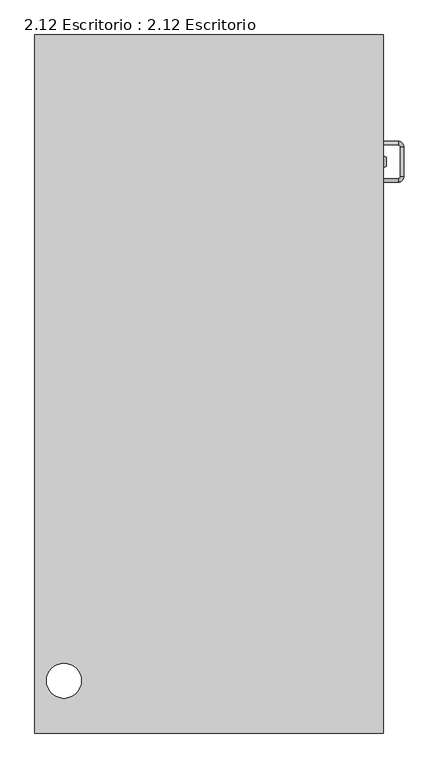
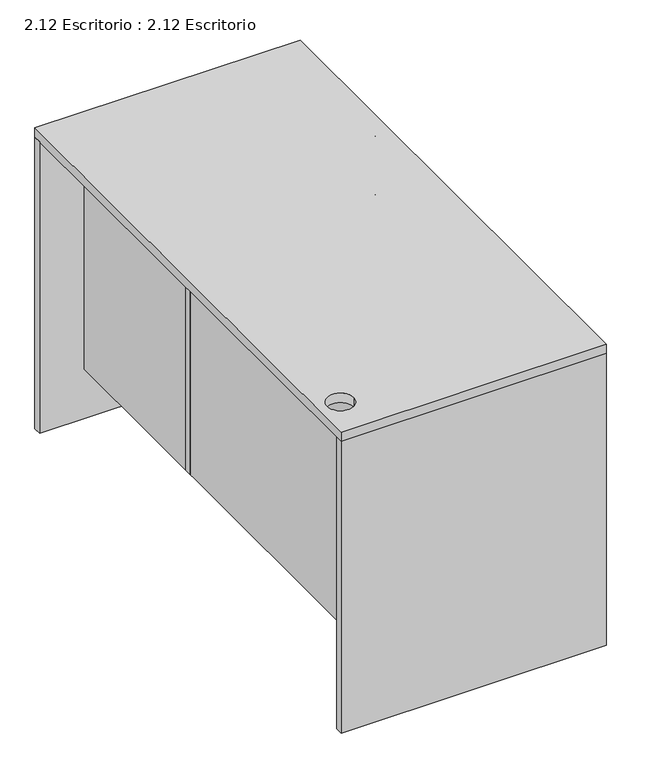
"""IFC4 building model written with IfcOpenShell, lengths in millimetres: furniture geometry, 2.12 Escritorio : 2.12 Escritorio."""

from ifc_helpers import new_model, si_unit, point, frame, origin, place, context, project, spatial, polyline, circle_curve, ellipse_curve, trimmed, faceted_brep, source, transform, mapped, element, save
from ifc_brep_helpers import plane_surface, cylinder_surface, revolved_surface, advanced_brep


def furniture_2_12_escritorio_2_12_escritorio_cd86329a(model_context):
    return source(origin(), model_context, "Body", "SolidModel", [
        faceted_brep([(300.0, 582.0, 0.0), (300.0, 582.0, 698.0), (-300.0, 582.0, 698.0), (-300.0, 582.0, 0.0), (300.0, 600.0, 698.0), (300.0, 600.0, 0.0), (-300.0, 600.0, 0.0), (-300.0, 600.0, 698.0)], [[[0, 1, 2, 3]], [[4, 5, 6, 7]], [[7, 2, 1, 4]], [[6, 3, 2, 7]], [[5, 0, 3, 6]], [[4, 1, 0, 5]]]),
        advanced_brep(
        [(-220.0, -510.0958621, 698.0), (-220.0, -510.0958621, 720.0), (-250.0, -480.0958621, 720.0), (-280.0, -510.0958621, 720.0), (-280.0, -510.0958621, 698.0), (300.0, -600.0, 698.0), (300.0, -600.0, 720.0), (-300.0, -600.0, 720.0), (-300.0, -600.0, 698.0), (300.0, 600.0, 720.0), (300.0, 600.0, 698.0), (-300.0, 600.0, 698.0), (-300.0, 600.0, 720.0)],
        [
            (0, 1),
            (1, 2, circle_curve(frame((-250.0, -510.0958621, 720.0), z_axis=(0.0, 0.0, 1.0), x_axis=(1.0, 0.0, 0.0)), 30.0)),
            (2, 3, circle_curve(frame((-250.0, -510.0958621, 720.0), z_axis=(0.0, 0.0, 1.0), x_axis=(1.0, 0.0, 0.0)), 30.0)),
            (3, 4),
            (4, 0, circle_curve(frame((-250.0, -510.0958621, 698.0), z_axis=(0.0, 0.0, -1.0), x_axis=(1.0, 0.0, 0.0)), 30.0)),
            (0, 4, circle_curve(frame((-250.0, -510.0958621, 698.0), z_axis=(0.0, 0.0, -1.0), x_axis=(1.0, 0.0, 0.0)), 30.0)),
            (3, 1, circle_curve(frame((-250.0, -510.0958621, 720.0), z_axis=(0.0, 0.0, 1.0), x_axis=(1.0, 0.0, 0.0)), 30.0)),
            (5, 6),
            (6, 7),
            (7, 8),
            (8, 5),
            (9, 10),
            (10, 11),
            (11, 12),
            (12, 9),
            (12, 7),
            (6, 9),
            (11, 8),
            (10, 5),
        ],
        [
            revolved_surface(polyline([(-220.0, -510.0958621, 698.0), (-220.0, -510.0958621, 720.0)]), (-250.0, -510.0958621, 720.0), (0.0, 0.0, -1.0)),
            plane_surface(frame((0.0, -600.0, 709.0), z_axis=(0.0, -1.0, 0.0), x_axis=(1.0, 0.0, 0.0))),
            plane_surface(frame((0.0, 600.0, 709.0), z_axis=(0.0, 1.0, 0.0), x_axis=(1.0, 0.0, 0.0))),
            plane_surface(frame((0.0, 0.0, 720.0), z_axis=(0.0, 0.0, 1.0), x_axis=(0.0, -1.0, 0.0))),
            plane_surface(frame((-300.0, 0.0, 709.0), z_axis=(-1.0, 0.0, 0.0), x_axis=(0.0, 1.0, 0.0))),
            plane_surface(frame((0.0, 0.0, 698.0), z_axis=(0.0, 0.0, -1.0), x_axis=(0.0, 1.0, 0.0))),
            plane_surface(frame((300.0, 0.0, 709.0), z_axis=(1.0, 0.0, 0.0), x_axis=(0.0, -1.0, 0.0))),
        ],
        [
            (0, [[1, 2, 3, 4, 5]]),
            (0, [[-1, 6, -4, 7]]),
            (1, [[8, 9, 10, 11]]),
            (2, [[12, 13, 14, 15]]),
            (3, [[16, -9, 17, -15], [-2, -7, -3]]),
            (4, [[18, -10, -16, -14]]),
            (5, [[19, -11, -18, -13], [-6, -5]]),
            (6, [[-17, -8, -19, -12]]),
        ],
    ),
        faceted_brep([(-50.0, -582.0, 628.0), (-50.0, -582.0, 613.0), (300.0, -582.0, 613.0), (300.0, -582.0, 628.0), (-50.0, 164.0, 613.0), (-50.0, 164.0, 628.0), (300.0, 164.0, 628.0), (300.0, 164.0, 613.0)], [[[0, 1, 2, 3]], [[4, 5, 6, 7]], [[7, 2, 1, 4]], [[6, 3, 2, 7]], [[5, 0, 3, 6]], [[4, 1, 0, 5]]]),
        faceted_brep([(300.0, -600.0, 0.0), (300.0, -600.0, 698.0), (-300.0, -600.0, 698.0), (-300.0, -600.0, 0.0), (300.0, -582.0, 698.0), (300.0, -582.0, 0.0), (-300.0, -582.0, 0.0), (-300.0, -582.0, 698.0)], [[[0, 1, 2, 3]], [[4, 5, 6, 7]], [[7, 2, 1, 4]], [[6, 3, 2, 7]], [[5, 0, 3, 6]], [[4, 1, 0, 5]]]),
        faceted_brep([(-100.0, 164.0, 0.0), (-100.0, 164.0, 120.0), (-100.0, 182.0, 120.0), (-100.0, 182.0, 0.0), (-200.0, 164.0, 120.0), (-200.0, 182.0, 120.0), (300.0, 182.0, 0.0), (300.0, 164.0, 0.0), (-200.0, 182.0, 698.0), (300.0, 182.0, 698.0), (300.0, 164.0, 698.0), (-200.0, 164.0, 698.0)], [[[0, 1, 2, 3]], [[1, 4, 5, 2]], [[0, 3, 6, 7]], [[3, 2, 5, 8, 9, 6]], [[1, 0, 7, 10, 11, 4]], [[8, 11, 10, 9]], [[5, 4, 11, 8]], [[9, 10, 7, 6]]]),
        faceted_brep([(300.0, 582.0, 558.0), (300.0, 582.0, 698.0), (300.0, 182.0, 698.0), (300.0, 182.0, 558.0), (282.0, 582.0, 698.0), (282.0, 582.0, 558.0), (282.0, 182.0, 558.0), (282.0, 182.0, 698.0)], [[[0, 1, 2, 3]], [[4, 5, 6, 7]], [[3, 6, 5, 0]], [[2, 7, 6, 3]], [[1, 4, 7, 2]], [[0, 5, 4, 1]]]),
        advanced_brep(
        [(325.0, 417.0, 628.0), (335.0, 407.0, 628.0), (329.0, 407.0, 628.0), (325.0, 411.0, 628.0), (335.0, 357.0, 628.0), (325.0, 347.0, 628.0), (325.0, 353.0, 628.0), (329.0, 357.0, 628.0), (300.0, 411.0, 628.0), (300.0, 417.0, 628.0), (300.0, 353.0, 628.0), (300.0, 347.0, 628.0)],
        [
            (0, 1, circle_curve(frame((325.0, 407.0, 628.0), z_axis=(0.0, 0.0, -1.0), x_axis=(0.0, -1.0, 0.0)), 10.0)),
            (1, 2, circle_curve(frame((332.0, 407.0, 628.0), z_axis=(2.910621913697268e-12, 1.0, 0.0), x_axis=(1.0, -2.910621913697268e-12, 0.0)), 3.0)),
            (2, 3, circle_curve(frame((325.0, 407.0, 628.0), z_axis=(0.0, 0.0, 1.0), x_axis=(0.0, -1.0, 0.0)), 4.0)),
            (3, 0, circle_curve(frame((325.0, 414.0, 628.0), z_axis=(1.0, 1.4551792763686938e-11, 0.0), x_axis=(-1.4551792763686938e-11, 1.0, 0.0)), 3.0)),
            (4, 5, circle_curve(frame((325.0, 357.0, 628.0), z_axis=(0.0, 0.0, -1.0), x_axis=(0.0, -1.0, 0.0)), 10.0)),
            (5, 6, circle_curve(frame((325.0, 350.0, 628.0), z_axis=(1.0, -1.7462253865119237e-11, 0.0), x_axis=(-1.7462253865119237e-11, -1.0, 0.0)), 3.0)),
            (6, 7, circle_curve(frame((325.0, 357.0, 628.0), z_axis=(0.0, 0.0, 1.0), x_axis=(0.0, -1.0, 0.0)), 4.0)),
            (7, 4, circle_curve(frame((332.0, 357.0, 628.0), z_axis=(-7.276018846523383e-12, -1.0, 0.0), x_axis=(1.0, -7.276018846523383e-12, 0.0)), 3.0)),
            (8, 3),
            (3, 0, circle_curve(frame((325.0, 414.0, 628.0), z_axis=(-1.0, 0.0, 0.0), x_axis=(0.0, -1.0, 0.0)), 3.0)),
            (0, 9),
            (9, 8, circle_curve(frame((300.0, 414.0, 628.0), z_axis=(1.0, 0.0, 0.0), x_axis=(0.0, -1.0, 0.0)), 3.0)),
            (2, 7),
            (7, 4, circle_curve(frame((332.0, 357.0, 628.0), z_axis=(0.0, 1.0, 0.0), x_axis=(-1.0, 0.0, 0.0)), 3.0)),
            (4, 1),
            (1, 2, circle_curve(frame((332.0, 407.0, 628.0), z_axis=(0.0, -1.0, 0.0), x_axis=(-1.0, 0.0, 0.0)), 3.0)),
            (6, 10),
            (10, 11, circle_curve(frame((300.0, 350.0, 628.0), z_axis=(1.0, 0.0, 0.0), x_axis=(0.0, 1.0, 0.0)), 3.0)),
            (11, 5),
            (5, 6, circle_curve(frame((325.0, 350.0, 628.0), z_axis=(-1.0, 0.0, 0.0), x_axis=(0.0, 1.0, 0.0)), 3.0)),
            (11, 10, circle_curve(frame((300.0, 350.0, 628.0), z_axis=(1.0, 0.0, 0.0), x_axis=(0.0, 1.0, 0.0)), 3.0)),
            (8, 9, circle_curve(frame((300.0, 414.0, 628.0), z_axis=(1.0, 0.0, 0.0), x_axis=(0.0, -1.0, 0.0)), 3.0)),
        ],
        [
            revolved_surface(trimmed(ellipse_curve(frame((325.0, 400.0, 628.0), z_axis=(1.0, 0.0, 0.0), x_axis=(0.0, -1.0, 0.0)), 3.0, 3.0), [point((325.0, 397.0, 628.0))], [point((325.0, 403.0, 628.0))], True, "CARTESIAN"), (325.0, 407.0, 628.0), (0.0, 0.0, -1.0)),
            revolved_surface(trimmed(ellipse_curve(frame((325.0, 350.0, 628.0), z_axis=(1.0, 0.0, 0.0), x_axis=(0.0, -1.0, 0.0)), 3.0, 3.0), [point((325.0, 347.0, 628.0))], [point((325.0, 353.0, 628.0))], True, "CARTESIAN"), (325.0, 357.0, 628.0), (0.0, 0.0, -1.0)),
            cylinder_surface(frame((300.0, 414.0, 628.0), z_axis=(1.0, 0.0, 0.0), x_axis=(0.0, -1.0, 0.0)), 3.0),
            cylinder_surface(frame((332.0, 407.0, 628.0), z_axis=(0.0, -1.0, 0.0), x_axis=(-1.0, 0.0, 0.0)), 3.0),
            cylinder_surface(frame((325.0, 350.0, 628.0), z_axis=(-1.0, 0.0, 0.0), x_axis=(0.0, 1.0, 0.0)), 3.0),
            revolved_surface(trimmed(ellipse_curve(frame((325.0, 350.0, 628.0), z_axis=(1.0, 0.0, 0.0), x_axis=(0.0, -1.0, 0.0)), 3.0, 3.0), [point((325.0, 353.0, 628.0))], [point((325.0, 347.0, 628.0))], True, "CARTESIAN"), (325.0, 357.0, 628.0), (0.0, 0.0, -1.0)),
            revolved_surface(trimmed(ellipse_curve(frame((325.0, 400.0, 628.0), z_axis=(1.0, 0.0, 0.0), x_axis=(0.0, -1.0, 0.0)), 3.0, 3.0), [point((325.0, 403.0, 628.0))], [point((325.0, 397.0, 628.0))], True, "CARTESIAN"), (325.0, 407.0, 628.0), (0.0, 0.0, -1.0)),
            plane_surface(frame((300.0, 350.0, 628.0), z_axis=(-1.0, 0.0, 0.0), x_axis=(0.0, 0.0, 1.0))),
            plane_surface(frame((300.0, 414.0, 628.0), z_axis=(-1.0, 0.0, 0.0), x_axis=(0.0, 0.0, 1.0))),
        ],
        [
            (0, [[1, 2, 3, 4]]),
            (1, [[5, 6, 7, 8]]),
            (2, [[9, 10, 11, 12]]),
            (3, [[13, 14, 15, 16]]),
            (4, [[17, 18, 19, 20]]),
            (4, [[-17, -6, -19, 21]]),
            (5, [[-5, -14, -7, -20]]),
            (3, [[-13, -2, -15, -8]]),
            (6, [[-1, -10, -3, -16]]),
            (2, [[-9, 22, -11, -4]]),
            (7, [[-18, -21]]),
            (8, [[-12, -22]]),
        ],
    ),
        advanced_brep(
        [(300.0, 392.0, 673.0), (305.0, 390.0, 673.0), (305.0, 374.0, 673.0), (300.0, 372.0, 673.0), (303.5, 382.0, 678.0), (305.0, 382.0, 678.0), (305.0, 382.0, 668.0), (303.5, 382.0, 668.0)],
        [
            (0, 1),
            (1, 2, circle_curve(frame((305.0, 382.0, 673.0), z_axis=(-1.0, 0.0, 0.0), x_axis=(0.0, 1.0, 0.0)), 8.0)),
            (2, 3),
            (3, 0, circle_curve(frame((300.0, 382.0, 673.0), z_axis=(1.0, 0.0, 0.0), x_axis=(0.0, 1.0, 0.0)), 10.0)),
            (4, 5),
            (5, 6, circle_curve(frame((305.0, 382.0, 673.0), z_axis=(1.0, 0.0, 0.0), x_axis=(0.0, 0.0, 1.0)), 5.0)),
            (6, 7),
            (7, 4, circle_curve(frame((303.5, 382.0, 673.0), z_axis=(-1.0, 0.0, 0.0), x_axis=(0.0, 0.0, 1.0)), 5.0)),
            (4, 7, circle_curve(frame((303.5, 382.0, 673.0), z_axis=(-1.0, 0.0, 0.0), x_axis=(0.0, 0.0, 1.0)), 5.0)),
            (6, 5, circle_curve(frame((305.0, 382.0, 673.0), z_axis=(1.0, 0.0, 0.0), x_axis=(0.0, 0.0, 1.0)), 5.0)),
            (0, 3, circle_curve(frame((300.0, 382.0, 673.0), z_axis=(1.0, 0.0, 0.0), x_axis=(0.0, 1.0, 0.0)), 10.0)),
            (2, 1, circle_curve(frame((305.0, 382.0, 673.0), z_axis=(-1.0, 0.0, 0.0), x_axis=(0.0, 1.0, 0.0)), 8.0)),
        ],
        [
            revolved_surface(polyline([(305.0, 390.0, 673.0), (300.0, 392.0, 673.0)]), (325.0, 382.0, 673.0), (-1.0, 0.0, 0.0)),
            revolved_surface(polyline([(303.5, 382.0, 678.0), (305.0, 382.0, 678.0)]), (304.25, 382.0, 673.0), (-1.0, 0.0, 0.0)),
            plane_surface(frame((303.5, 382.0, 673.0), z_axis=(1.0, 0.0, 0.0), x_axis=(0.0, 0.0, 1.0))),
            plane_surface(frame((300.0, 382.0, 673.0), z_axis=(-1.0, 0.0, 0.0), x_axis=(0.0, -1.0, 0.0))),
            plane_surface(frame((305.0, 382.0, 673.0), z_axis=(1.0, 0.0, 0.0), x_axis=(0.0, 1.0, 0.0))),
        ],
        [
            (0, [[1, 2, 3, 4]]),
            (1, [[5, 6, 7, 8]]),
            (1, [[-5, 9, -7, 10]]),
            (2, [[-9, -8]]),
            (0, [[-1, 11, -3, 12]]),
            (3, [[-4, -11]]),
            (4, [[-12, -2], [-10, -6]]),
        ],
    ),
        faceted_brep([(300.0, 582.0, 418.0), (300.0, 582.0, 558.0), (300.0, 182.0, 558.0), (300.0, 182.0, 418.0), (282.0, 582.0, 558.0), (282.0, 582.0, 418.0), (282.0, 182.0, 418.0), (282.0, 182.0, 558.0)], [[[0, 1, 2, 3]], [[4, 5, 6, 7]], [[3, 6, 5, 0]], [[2, 7, 6, 3]], [[1, 4, 7, 2]], [[0, 5, 4, 1]]]),
        advanced_brep(
        [(325.0, 417.0, 488.0), (335.0, 407.0, 488.0), (329.0, 407.0, 488.0), (325.0, 411.0, 488.0), (335.0, 357.0, 488.0), (325.0, 347.0, 488.0), (325.0, 353.0, 488.0), (329.0, 357.0, 488.0), (300.0, 411.0, 488.0), (300.0, 417.0, 488.0), (300.0, 353.0, 488.0), (300.0, 347.0, 488.0)],
        [
            (0, 1, circle_curve(frame((325.0, 407.0, 488.0), z_axis=(0.0, 0.0, -1.0), x_axis=(0.0, -1.0, 0.0)), 10.0)),
            (1, 2, circle_curve(frame((332.0, 407.0, 488.0), z_axis=(2.910621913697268e-12, 1.0, 0.0), x_axis=(1.0, -2.910621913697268e-12, 0.0)), 3.0)),
            (2, 3, circle_curve(frame((325.0, 407.0, 488.0), z_axis=(0.0, 0.0, 1.0), x_axis=(0.0, -1.0, 0.0)), 4.0)),
            (3, 0, circle_curve(frame((325.0, 414.0, 488.0), z_axis=(1.0, 1.4551792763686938e-11, 0.0), x_axis=(-1.4551792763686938e-11, 1.0, 0.0)), 3.0)),
            (4, 5, circle_curve(frame((325.0, 357.0, 488.0), z_axis=(0.0, 0.0, -1.0), x_axis=(0.0, -1.0, 0.0)), 10.0)),
            (5, 6, circle_curve(frame((325.0, 350.0, 488.0), z_axis=(1.0, -1.7462253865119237e-11, 0.0), x_axis=(-1.7462253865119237e-11, -1.0, 0.0)), 3.0)),
            (6, 7, circle_curve(frame((325.0, 357.0, 488.0), z_axis=(0.0, 0.0, 1.0), x_axis=(0.0, -1.0, 0.0)), 4.0)),
            (7, 4, circle_curve(frame((332.0, 357.0, 488.0), z_axis=(-7.276018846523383e-12, -1.0, 0.0), x_axis=(1.0, -7.276018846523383e-12, 0.0)), 3.0)),
            (8, 3),
            (3, 0, circle_curve(frame((325.0, 414.0, 488.0), z_axis=(-1.0, 0.0, 0.0), x_axis=(0.0, -1.0, 0.0)), 3.0)),
            (0, 9),
            (9, 8, circle_curve(frame((300.0, 414.0, 488.0), z_axis=(1.0, 0.0, 0.0), x_axis=(0.0, -1.0, 0.0)), 3.0)),
            (2, 7),
            (7, 4, circle_curve(frame((332.0, 357.0, 488.0), z_axis=(0.0, 1.0, 0.0), x_axis=(-1.0, 0.0, 0.0)), 3.0)),
            (4, 1),
            (1, 2, circle_curve(frame((332.0, 407.0, 488.0), z_axis=(0.0, -1.0, 0.0), x_axis=(-1.0, 0.0, 0.0)), 3.0)),
            (6, 10),
            (10, 11, circle_curve(frame((300.0, 350.0, 488.0), z_axis=(1.0, 0.0, 0.0), x_axis=(0.0, 1.0, 0.0)), 3.0)),
            (11, 5),
            (5, 6, circle_curve(frame((325.0, 350.0, 488.0), z_axis=(-1.0, 0.0, 0.0), x_axis=(0.0, 1.0, 0.0)), 3.0)),
            (11, 10, circle_curve(frame((300.0, 350.0, 488.0), z_axis=(1.0, 0.0, 0.0), x_axis=(0.0, 1.0, 0.0)), 3.0)),
            (8, 9, circle_curve(frame((300.0, 414.0, 488.0), z_axis=(1.0, 0.0, 0.0), x_axis=(0.0, -1.0, 0.0)), 3.0)),
        ],
        [
            revolved_surface(trimmed(ellipse_curve(frame((325.0, 400.0, 488.0), z_axis=(1.0, 0.0, 0.0), x_axis=(0.0, -1.0, 0.0)), 3.0, 3.0), [point((325.0, 397.0, 488.0))], [point((325.0, 403.0, 488.0))], True, "CARTESIAN"), (325.0, 407.0, 488.0), (0.0, 0.0, -1.0)),
            revolved_surface(trimmed(ellipse_curve(frame((325.0, 350.0, 488.0), z_axis=(1.0, 0.0, 0.0), x_axis=(0.0, -1.0, 0.0)), 3.0, 3.0), [point((325.0, 347.0, 488.0))], [point((325.0, 353.0, 488.0))], True, "CARTESIAN"), (325.0, 357.0, 488.0), (0.0, 0.0, -1.0)),
            cylinder_surface(frame((300.0, 414.0, 488.0), z_axis=(1.0, 0.0, 0.0), x_axis=(0.0, -1.0, 0.0)), 3.0),
            cylinder_surface(frame((332.0, 407.0, 488.0), z_axis=(0.0, -1.0, 0.0), x_axis=(-1.0, 0.0, 0.0)), 3.0),
            cylinder_surface(frame((325.0, 350.0, 488.0), z_axis=(-1.0, 0.0, 0.0), x_axis=(0.0, 1.0, 0.0)), 3.0),
            revolved_surface(trimmed(ellipse_curve(frame((325.0, 350.0, 488.0), z_axis=(1.0, 0.0, 0.0), x_axis=(0.0, -1.0, 0.0)), 3.0, 3.0), [point((325.0, 353.0, 488.0))], [point((325.0, 347.0, 488.0))], True, "CARTESIAN"), (325.0, 357.0, 488.0), (0.0, 0.0, -1.0)),
            revolved_surface(trimmed(ellipse_curve(frame((325.0, 400.0, 488.0), z_axis=(1.0, 0.0, 0.0), x_axis=(0.0, -1.0, 0.0)), 3.0, 3.0), [point((325.0, 403.0, 488.0))], [point((325.0, 397.0, 488.0))], True, "CARTESIAN"), (325.0, 407.0, 488.0), (0.0, 0.0, -1.0)),
            plane_surface(frame((300.0, 350.0, 488.0), z_axis=(-1.0, 0.0, 0.0), x_axis=(0.0, 0.0, 1.0))),
            plane_surface(frame((300.0, 414.0, 488.0), z_axis=(-1.0, 0.0, 0.0), x_axis=(0.0, 0.0, 1.0))),
        ],
        [
            (0, [[1, 2, 3, 4]]),
            (1, [[5, 6, 7, 8]]),
            (2, [[9, 10, 11, 12]]),
            (3, [[13, 14, 15, 16]]),
            (4, [[17, 18, 19, 20]]),
            (4, [[-17, -6, -19, 21]]),
            (5, [[-5, -14, -7, -20]]),
            (3, [[-13, -2, -15, -8]]),
            (6, [[-1, -10, -3, -16]]),
            (2, [[-9, 22, -11, -4]]),
            (7, [[-18, -21]]),
            (8, [[-12, -22]]),
        ],
    ),
        faceted_brep([(300.0, 582.0, 278.0), (300.0, 582.0, 418.0), (300.0, 182.0, 418.0), (300.0, 182.0, 278.0), (282.0, 582.0, 418.0), (282.0, 582.0, 278.0), (282.0, 182.0, 278.0), (282.0, 182.0, 418.0)], [[[0, 1, 2, 3]], [[4, 5, 6, 7]], [[3, 6, 5, 0]], [[2, 7, 6, 3]], [[1, 4, 7, 2]], [[0, 5, 4, 1]]]),
        advanced_brep(
        [(325.0, 417.0, 348.0), (335.0, 407.0, 348.0), (329.0, 407.0, 348.0), (325.0, 411.0, 348.0), (335.0, 357.0, 348.0), (325.0, 347.0, 348.0), (325.0, 353.0, 348.0), (329.0, 357.0, 348.0), (300.0, 411.0, 348.0), (300.0, 417.0, 348.0), (300.0, 353.0, 348.0), (300.0, 347.0, 348.0)],
        [
            (0, 1, circle_curve(frame((325.0, 407.0, 348.0), z_axis=(0.0, 0.0, -1.0), x_axis=(0.0, -1.0, 0.0)), 10.0)),
            (1, 2, circle_curve(frame((332.0, 407.0, 348.0), z_axis=(2.910621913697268e-12, 1.0, 0.0), x_axis=(1.0, -2.910621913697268e-12, 0.0)), 3.0)),
            (2, 3, circle_curve(frame((325.0, 407.0, 348.0), z_axis=(0.0, 0.0, 1.0), x_axis=(0.0, -1.0, 0.0)), 4.0)),
            (3, 0, circle_curve(frame((325.0, 414.0, 348.0), z_axis=(1.0, 1.4551792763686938e-11, 0.0), x_axis=(-1.4551792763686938e-11, 1.0, 0.0)), 3.0)),
            (4, 5, circle_curve(frame((325.0, 357.0, 348.0), z_axis=(0.0, 0.0, -1.0), x_axis=(0.0, -1.0, 0.0)), 10.0)),
            (5, 6, circle_curve(frame((325.0, 350.0, 348.0), z_axis=(1.0, -3.4924507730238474e-11, 0.0), x_axis=(-3.4924507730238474e-11, -1.0, 0.0)), 3.0)),
            (6, 7, circle_curve(frame((325.0, 357.0, 348.0), z_axis=(0.0, 0.0, 1.0), x_axis=(0.0, -1.0, 0.0)), 4.0)),
            (7, 4, circle_curve(frame((332.0, 357.0, 348.0), z_axis=(-7.276018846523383e-12, -1.0, 0.0), x_axis=(1.0, -7.276018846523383e-12, 0.0)), 3.0)),
            (8, 3),
            (3, 0, circle_curve(frame((325.0, 414.0, 348.0), z_axis=(-1.0, 0.0, 0.0), x_axis=(0.0, -1.0, 0.0)), 3.0)),
            (0, 9),
            (9, 8, circle_curve(frame((300.0, 414.0, 348.0), z_axis=(1.0, 0.0, 0.0), x_axis=(0.0, -1.0, 0.0)), 3.0)),
            (2, 7),
            (7, 4, circle_curve(frame((332.0, 357.0, 348.0), z_axis=(0.0, 1.0, 0.0), x_axis=(-1.0, 0.0, 0.0)), 3.0)),
            (4, 1),
            (1, 2, circle_curve(frame((332.0, 407.0, 348.0), z_axis=(0.0, -1.0, 0.0), x_axis=(-1.0, 0.0, 0.0)), 3.0)),
            (6, 10),
            (10, 11, circle_curve(frame((300.0, 350.0, 348.0), z_axis=(1.0, 0.0, 0.0), x_axis=(0.0, 1.0, 0.0)), 3.0)),
            (11, 5),
            (5, 6, circle_curve(frame((325.0, 350.0, 348.0), z_axis=(-1.0, 0.0, 0.0), x_axis=(0.0, 1.0, 0.0)), 3.0)),
            (11, 10, circle_curve(frame((300.0, 350.0, 348.0), z_axis=(1.0, 0.0, 0.0), x_axis=(0.0, 1.0, 0.0)), 3.0)),
            (8, 9, circle_curve(frame((300.0, 414.0, 348.0), z_axis=(1.0, 0.0, 0.0), x_axis=(0.0, -1.0, 0.0)), 3.0)),
        ],
        [
            revolved_surface(trimmed(ellipse_curve(frame((325.0, 400.0, 348.0), z_axis=(1.0, 0.0, 0.0), x_axis=(0.0, -1.0, 0.0)), 3.0, 3.0), [point((325.0, 397.0, 348.0))], [point((325.0, 403.0, 348.0))], True, "CARTESIAN"), (325.0, 407.0, 348.0), (0.0, 0.0, -1.0)),
            revolved_surface(trimmed(ellipse_curve(frame((325.0, 350.0, 348.0), z_axis=(1.0, 0.0, 0.0), x_axis=(0.0, -1.0, 0.0)), 3.0, 3.0), [point((325.0, 347.0, 348.0))], [point((325.0, 353.0, 348.0))], True, "CARTESIAN"), (325.0, 357.0, 348.0), (0.0, 0.0, -1.0)),
            cylinder_surface(frame((300.0, 414.0, 348.0), z_axis=(1.0, 0.0, 0.0), x_axis=(0.0, -1.0, 0.0)), 3.0),
            cylinder_surface(frame((332.0, 407.0, 348.0), z_axis=(0.0, -1.0, 0.0), x_axis=(-1.0, 0.0, 0.0)), 3.0),
            cylinder_surface(frame((325.0, 350.0, 348.0), z_axis=(-1.0, 0.0, 0.0), x_axis=(0.0, 1.0, 0.0)), 3.0),
            revolved_surface(trimmed(ellipse_curve(frame((325.0, 350.0, 348.0), z_axis=(1.0, 0.0, 0.0), x_axis=(0.0, -1.0, 0.0)), 3.0, 3.0), [point((325.0, 353.0, 348.0))], [point((325.0, 347.0, 348.0))], True, "CARTESIAN"), (325.0, 357.0, 348.0), (0.0, 0.0, -1.0)),
            revolved_surface(trimmed(ellipse_curve(frame((325.0, 400.0, 348.0), z_axis=(1.0, 0.0, 0.0), x_axis=(0.0, -1.0, 0.0)), 3.0, 3.0), [point((325.0, 403.0, 348.0))], [point((325.0, 397.0, 348.0))], True, "CARTESIAN"), (325.0, 407.0, 348.0), (0.0, 0.0, -1.0)),
            plane_surface(frame((300.0, 350.0, 348.0), z_axis=(-1.0, 0.0, 0.0), x_axis=(0.0, 0.0, 1.0))),
            plane_surface(frame((300.0, 414.0, 348.0), z_axis=(-1.0, 0.0, 0.0), x_axis=(0.0, 0.0, 1.0))),
        ],
        [
            (0, [[1, 2, 3, 4]]),
            (1, [[5, 6, 7, 8]]),
            (2, [[9, 10, 11, 12]]),
            (3, [[13, 14, 15, 16]]),
            (4, [[17, 18, 19, 20]]),
            (4, [[-17, -6, -19, 21]]),
            (5, [[-5, -14, -7, -20]]),
            (3, [[-13, -2, -15, -8]]),
            (6, [[-1, -10, -3, -16]]),
            (2, [[-9, 22, -11, -4]]),
            (7, [[-18, -21]]),
            (8, [[-12, -22]]),
        ],
    ),
        faceted_brep([(300.0, 582.0, 138.0), (300.0, 582.0, 278.0), (300.0, 182.0, 278.0), (300.0, 182.0, 138.0), (282.0, 582.0, 278.0), (282.0, 582.0, 138.0), (282.0, 182.0, 138.0), (282.0, 182.0, 278.0)], [[[0, 1, 2, 3]], [[4, 5, 6, 7]], [[3, 6, 5, 0]], [[2, 7, 6, 3]], [[1, 4, 7, 2]], [[0, 5, 4, 1]]]),
        advanced_brep(
        [(325.0, 417.0, 208.0), (335.0, 407.0, 208.0), (329.0, 407.0, 208.0), (325.0, 411.0, 208.0), (335.0, 357.0, 208.0), (325.0, 347.0, 208.0), (325.0, 353.0, 208.0), (329.0, 357.0, 208.0), (300.0, 411.0, 208.0), (300.0, 417.0, 208.0), (300.0, 353.0, 208.0), (300.0, 347.0, 208.0)],
        [
            (0, 1, circle_curve(frame((325.0, 407.0, 208.0), z_axis=(0.0, 0.0, -1.0), x_axis=(0.0, -1.0, 0.0)), 10.0)),
            (1, 2, circle_curve(frame((332.0, 407.0, 208.0), z_axis=(2.910621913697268e-12, 1.0, 0.0), x_axis=(1.0, -2.910621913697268e-12, 0.0)), 3.0)),
            (2, 3, circle_curve(frame((325.0, 407.0, 208.0), z_axis=(0.0, 0.0, 1.0), x_axis=(0.0, -1.0, 0.0)), 4.0)),
            (3, 0, circle_curve(frame((325.0, 414.0, 208.0), z_axis=(1.0, 1.4551792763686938e-11, 0.0), x_axis=(-1.4551792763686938e-11, 1.0, 0.0)), 3.0)),
            (4, 5, circle_curve(frame((325.0, 357.0, 208.0), z_axis=(0.0, 0.0, -1.0), x_axis=(0.0, -1.0, 0.0)), 10.0)),
            (5, 6, circle_curve(frame((325.0, 350.0, 208.0), z_axis=(1.0, -3.4924507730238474e-11, 0.0), x_axis=(-3.4924507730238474e-11, -1.0, 0.0)), 3.0)),
            (6, 7, circle_curve(frame((325.0, 357.0, 208.0), z_axis=(0.0, 0.0, 1.0), x_axis=(0.0, -1.0, 0.0)), 4.0)),
            (7, 4, circle_curve(frame((332.0, 357.0, 208.0), z_axis=(-7.276018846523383e-12, -1.0, 0.0), x_axis=(1.0, -7.276018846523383e-12, 0.0)), 3.0)),
            (8, 3),
            (3, 0, circle_curve(frame((325.0, 414.0, 208.0), z_axis=(-1.0, 0.0, 0.0), x_axis=(0.0, -1.0, 0.0)), 3.0)),
            (0, 9),
            (9, 8, circle_curve(frame((300.0, 414.0, 208.0), z_axis=(1.0, 0.0, 0.0), x_axis=(0.0, -1.0, 0.0)), 3.0)),
            (2, 7),
            (7, 4, circle_curve(frame((332.0, 357.0, 208.0), z_axis=(0.0, 1.0, 0.0), x_axis=(-1.0, 0.0, 0.0)), 3.0)),
            (4, 1),
            (1, 2, circle_curve(frame((332.0, 407.0, 208.0), z_axis=(0.0, -1.0, 0.0), x_axis=(-1.0, 0.0, 0.0)), 3.0)),
            (6, 10),
            (10, 11, circle_curve(frame((300.0, 350.0, 208.0), z_axis=(1.0, 0.0, 0.0), x_axis=(0.0, 1.0, 0.0)), 3.0)),
            (11, 5),
            (5, 6, circle_curve(frame((325.0, 350.0, 208.0), z_axis=(-1.0, 0.0, 0.0), x_axis=(0.0, 1.0, 0.0)), 3.0)),
            (11, 10, circle_curve(frame((300.0, 350.0, 208.0), z_axis=(1.0, 0.0, 0.0), x_axis=(0.0, 1.0, 0.0)), 3.0)),
            (8, 9, circle_curve(frame((300.0, 414.0, 208.0), z_axis=(1.0, 0.0, 0.0), x_axis=(0.0, -1.0, 0.0)), 3.0)),
        ],
        [
            revolved_surface(trimmed(ellipse_curve(frame((325.0, 400.0, 208.0), z_axis=(1.0, 0.0, 0.0), x_axis=(0.0, -1.0, 0.0)), 3.0, 3.0), [point((325.0, 397.0, 208.0))], [point((325.0, 403.0, 208.0))], True, "CARTESIAN"), (325.0, 407.0, 208.0), (0.0, 0.0, -1.0)),
            revolved_surface(trimmed(ellipse_curve(frame((325.0, 350.0, 208.0), z_axis=(1.0, 0.0, 0.0), x_axis=(0.0, -1.0, 0.0)), 3.0, 3.0), [point((325.0, 347.0, 208.0))], [point((325.0, 353.0, 208.0))], True, "CARTESIAN"), (325.0, 357.0, 208.0), (0.0, 0.0, -1.0)),
            cylinder_surface(frame((300.0, 414.0, 208.0), z_axis=(1.0, 0.0, 0.0), x_axis=(0.0, -1.0, 0.0)), 3.0),
            cylinder_surface(frame((332.0, 407.0, 208.0), z_axis=(0.0, -1.0, 0.0), x_axis=(-1.0, 0.0, 0.0)), 3.0),
            cylinder_surface(frame((325.0, 350.0, 208.0), z_axis=(-1.0, 0.0, 0.0), x_axis=(0.0, 1.0, 0.0)), 3.0),
            revolved_surface(trimmed(ellipse_curve(frame((325.0, 350.0, 208.0), z_axis=(1.0, 0.0, 0.0), x_axis=(0.0, -1.0, 0.0)), 3.0, 3.0), [point((325.0, 353.0, 208.0))], [point((325.0, 347.0, 208.0))], True, "CARTESIAN"), (325.0, 357.0, 208.0), (0.0, 0.0, -1.0)),
            revolved_surface(trimmed(ellipse_curve(frame((325.0, 400.0, 208.0), z_axis=(1.0, 0.0, 0.0), x_axis=(0.0, -1.0, 0.0)), 3.0, 3.0), [point((325.0, 403.0, 208.0))], [point((325.0, 397.0, 208.0))], True, "CARTESIAN"), (325.0, 407.0, 208.0), (0.0, 0.0, -1.0)),
            plane_surface(frame((300.0, 350.0, 208.0), z_axis=(-1.0, 0.0, 0.0), x_axis=(0.0, 0.0, 1.0))),
            plane_surface(frame((300.0, 414.0, 208.0), z_axis=(-1.0, 0.0, 0.0), x_axis=(0.0, 0.0, 1.0))),
        ],
        [
            (0, [[1, 2, 3, 4]]),
            (1, [[5, 6, 7, 8]]),
            (2, [[9, 10, 11, 12]]),
            (3, [[13, 14, 15, 16]]),
            (4, [[17, 18, 19, 20]]),
            (4, [[-17, -6, -19, 21]]),
            (5, [[-5, -14, -7, -20]]),
            (3, [[-13, -2, -15, -8]]),
            (6, [[-1, -10, -3, -16]]),
            (2, [[-9, 22, -11, -4]]),
            (7, [[-18, -21]]),
            (8, [[-12, -22]]),
        ],
    ),
        faceted_brep([(-182.0, 582.0, 138.0), (-182.0, 582.0, 120.0), (-182.0, 182.0, 120.0), (-182.0, 182.0, 138.0), (300.0, 582.0, 120.0), (300.0, 582.0, 138.0), (300.0, 182.0, 138.0), (300.0, 182.0, 120.0)], [[[0, 1, 2, 3]], [[4, 5, 6, 7]], [[7, 2, 1, 4]], [[6, 3, 2, 7]], [[5, 0, 3, 6]], [[4, 1, 0, 5]]]),
        faceted_brep([(-200.0, -582.0, 698.0), (-200.0, -582.0, 120.0), (-182.0, -582.0, 120.0), (-182.0, -582.0, 698.0), (-200.0, 600.0, 120.0), (-200.0, 600.0, 698.0), (-182.0, 600.0, 698.0), (-182.0, 600.0, 120.0)], [[[0, 1, 2, 3]], [[4, 5, 6, 7]], [[3, 6, 5, 0]], [[2, 7, 6, 3]], [[1, 4, 7, 2]], [[0, 5, 4, 1]]]),
    ])


if __name__ == "__main__":
    model = new_model("IFC4")
    model_context = context("Model", 3, world=origin())
    ifc_project = project(units=[si_unit("LENGTHUNIT", "METRE", prefix="MILLI")], contexts=[model_context])
    site = spatial("IfcSite", under=ifc_project)
    building = spatial("IfcBuilding", under=site)
    placement = place(None, origin())
    furniture_2_12_escritorio_2_12_escritorio_shape = furniture_2_12_escritorio_2_12_escritorio_cd86329a(model_context)
    element("IfcFurniture", 1, ObjectType="2.12 Escritorio : 2.12 Escritorio", at=placement, inside=building, context=model_context, shape_type="MappedRepresentation", body=[
        mapped(furniture_2_12_escritorio_2_12_escritorio_shape, transform((0.0, 0.0, 0.0), x_axis=(1.0, 0.0, 0.0), y_axis=(0.0, 1.0, 0.0), z_axis=(0.0, 0.0, 1.0))),
    ])
    save(model, "model.ifc")
